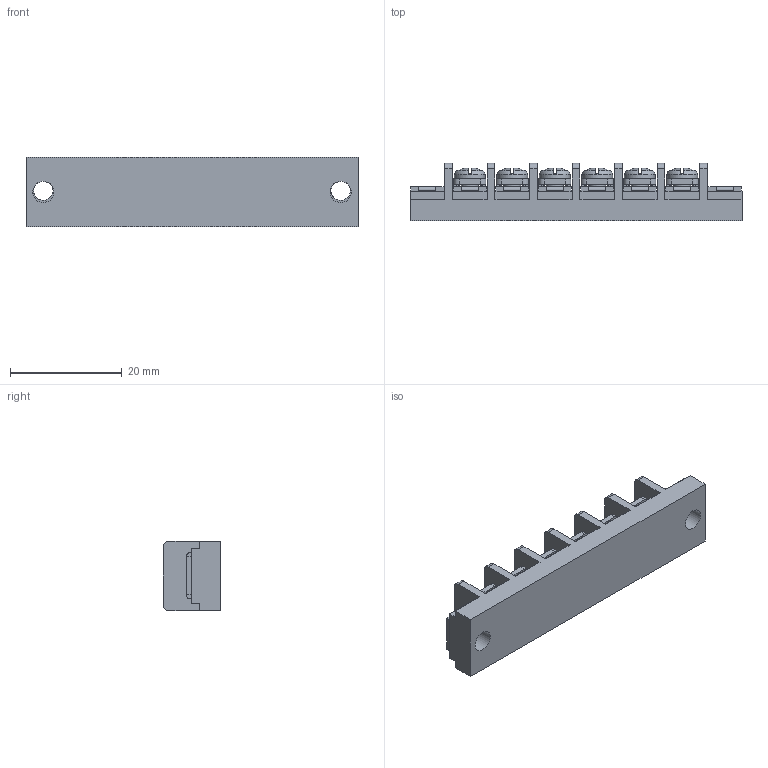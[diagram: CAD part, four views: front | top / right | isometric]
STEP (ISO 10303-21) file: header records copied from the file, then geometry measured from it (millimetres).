
FILE_DESCRIPTION(/* description */ ('Alibre Inc.'),/* implementation_level */ '2;1');
FILE_NAME(/* name */ 'export0',/* time_stamp */ '2015-10-26T18:11:20+09:00',/* author */ (''),/* organization */ (''),/* preprocessor_version */ 'ST-DEVELOPER v14',/* originating_system */ 'Alibre',/* authorisation */ '');
FILE_SCHEMA (('CONFIG_CONTROL_DESIGN'));
Length unit declared in the file: centimetre
Products named in the file (1): ID_1
Bounding box: 59.54 x 10.3 x 12.5 mm (x, y, z)
Volume: 4986.6 mm3; surface area: 4478.4 mm2
Topology: 1 solids, 17 shells, 994 faces, 2702 edges, 1782 vertices
Faces by surface type: plane 766, bspline 104, cylinder 76, cone 24, torus 12, sphere 12
Full cylindrical faces by diameter (mm): 3 x6, 3.5 x2, 3.8 x2, 5.5 x6
Entity records: 29771 total; most frequent: CARTESIAN_POINT 6751, ORIENTED_EDGE 5292, DIRECTION 3542, EDGE_CURVE 2646, VECTOR 1916, LINE 1916, VERTEX_POINT 1754, AXIS2_PLACEMENT_3D 1161
